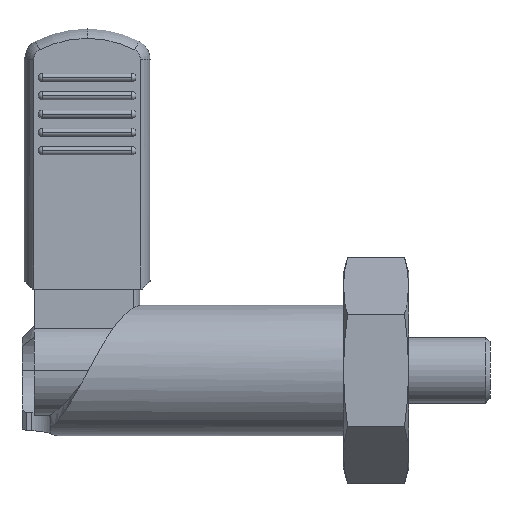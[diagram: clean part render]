
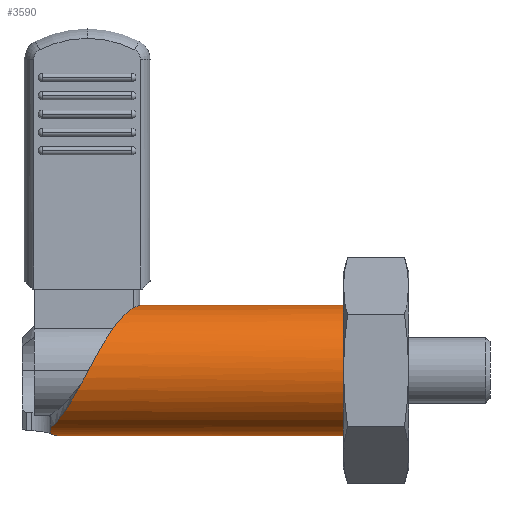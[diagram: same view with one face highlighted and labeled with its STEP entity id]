
A CAD part, left-side view. The second image highlights one B-rep face of the part: STEP entity #3590.
In plain terms, the highlighted cylindrical face has radius 8 mm (diameter 16 mm), a partial arc.
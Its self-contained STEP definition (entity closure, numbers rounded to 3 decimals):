
#5 = CARTESIAN_POINT ( 'NONE',  ( -7.467, 37.653, 3.094 ) ) ;
#19 = DIRECTION ( 'NONE',  ( 0., -1., 0. ) ) ;
#28 = CARTESIAN_POINT ( 'NONE',  ( -7.228, 41.334, -3.617 ) ) ;
#49 = CARTESIAN_POINT ( 'NONE',  ( -6.293, 36.425, 5.072 ) ) ;
#67 = VERTEX_POINT ( 'NONE', #2183 ) ;
#86 = CARTESIAN_POINT ( 'NONE',  ( -1.35, 43.615, -7.887 ) ) ;
#115 = FACE_OUTER_BOUND ( 'NONE', #2875, .T. ) ;
#168 = CARTESIAN_POINT ( 'NONE',  ( -0.501, 33.031, 7.988 ) ) ;
#192 = DIRECTION ( 'NONE',  ( 0., -1., 0. ) ) ;
#272 = CARTESIAN_POINT ( 'NONE',  ( -1.441, 33.369, 7.869 ) ) ;
#369 =( BOUNDED_CURVE ( )  B_SPLINE_CURVE ( 2, ( #440, #3766, #3436, #3786, #767, #49, #1871, #5, #2240, #3052, #1517, #4457, #417, #28, #810, #3356, #2332, #1944, #1965 ),
 .UNSPECIFIED., .F., .T. ) 
 B_SPLINE_CURVE_WITH_KNOTS ( ( 3, 2, 2, 2, 2, 2, 2, 2, 2, 3 ),
 ( 0.001, 0.083, 0.167, 0.25, 0.333, 0.417, 0.5, 0.583, 0.667, 0.723 ),
 .UNSPECIFIED. ) 
 CURVE ( )  GEOMETRIC_REPRESENTATION_ITEM ( )  RATIONAL_B_SPLINE_CURVE ( ( 1., 0.99, 1., 0.99, 1., 0.99, 1., 0.99, 1., 0.99, 1., 0.99, 1., 0.99, 1., 0.99, 1., 0.993, 0.996 ) ) 
 REPRESENTATION_ITEM ( '' )  );
#417 = CARTESIAN_POINT ( 'NONE',  ( -7.591, 40.721, -2.526 ) ) ;
#440 = CARTESIAN_POINT ( 'NONE',  ( -1.441, 33.369, 7.869 ) ) ;
#470 = CARTESIAN_POINT ( 'NONE',  ( -0.175, 43.3, -8. ) ) ;
#547 = CARTESIAN_POINT ( 'NONE',  ( 0., 0., -8. ) ) ;
#684 = ORIENTED_EDGE ( 'NONE', *, *, #4495, .T. ) ;
#765 = VERTEX_POINT ( 'NONE', #4321 ) ;
#767 = CARTESIAN_POINT ( 'NONE',  ( -5.451, 35.812, 5.856 ) ) ;
#810 = CARTESIAN_POINT ( 'NONE',  ( -6.572, 41.948, -4.562 ) ) ;
#841 = CARTESIAN_POINT ( 'NONE',  ( -0.35, 43.315, -7.994 ) ) ;
#918 = LINE ( 'NONE', #547, #1100 ) ;
#930 = CARTESIAN_POINT ( 'NONE',  ( 0., 33., 8. ) ) ;
#941 = B_SPLINE_CURVE_WITH_KNOTS ( 'NONE', 3,
 ( #1195, #4156, #1971, #86, #1595, #1217, #4180, #841, #470, #3871 ),
 .UNSPECIFIED., .F., .F.,
 ( 4, 2, 2, 2, 4 ),
 ( 0.003, 0.003, 0.004, 0.004, 0.005 ),
 .UNSPECIFIED. ) ;
#1100 = VECTOR ( 'NONE', #3234, 1000. ) ;
#1155 = VERTEX_POINT ( 'NONE', #1671 ) ;
#1156 = DIRECTION ( 'NONE',  ( 0., 0., -1. ) ) ;
#1195 = CARTESIAN_POINT ( 'NONE',  ( -1.926, 44., -7.765 ) ) ;
#1217 = CARTESIAN_POINT ( 'NONE',  ( -0.867, 43.423, -7.955 ) ) ;
#1311 = CARTESIAN_POINT ( 'NONE',  ( 0., 33., 8. ) ) ;
#1342 = AXIS2_PLACEMENT_3D ( 'NONE', #3022, #19, #4494 ) ;
#1357 = CARTESIAN_POINT ( 'NONE',  ( -1.223, 33.249, 7.909 ) ) ;
#1517 = CARTESIAN_POINT ( 'NONE',  ( -7.995, 39.494, -0.285 ) ) ;
#1560 = ORIENTED_EDGE ( 'NONE', *, *, #4334, .T. ) ;
#1595 = CARTESIAN_POINT ( 'NONE',  ( -1.193, 43.542, -7.912 ) ) ;
#1671 = CARTESIAN_POINT ( 'NONE',  ( 0., 43.3, -8. ) ) ;
#1734 = CARTESIAN_POINT ( 'NONE',  ( -0.252, 33., 8. ) ) ;
#1871 = CARTESIAN_POINT ( 'NONE',  ( -6.88, 37.039, 4.083 ) ) ;
#1914 = DIRECTION ( 'NONE',  ( 0., -1., 0. ) ) ;
#1944 = CARTESIAN_POINT ( 'NONE',  ( -4.421, 43.586, -6.711 ) ) ;
#1965 = CARTESIAN_POINT ( 'NONE',  ( -3.741, 44., -7.071 ) ) ;
#1971 = CARTESIAN_POINT ( 'NONE',  ( -1.65, 43.789, -7.829 ) ) ;
#2022 = VERTEX_POINT ( 'NONE', #2576 ) ;
#2026 = ORIENTED_EDGE ( 'NONE', *, *, #4013, .T. ) ;
#2054 = B_SPLINE_CURVE_WITH_KNOTS ( 'NONE', 3,
 ( #272, #1357, #2080, #168, #1734, #1311 ),
 .UNSPECIFIED., .F., .F.,
 ( 4, 2, 4 ),
 ( 0.003, 0.004, 0.005 ),
 .UNSPECIFIED. ) ;
#2080 = CARTESIAN_POINT ( 'NONE',  ( -0.992, 33.157, 7.942 ) ) ;
#2177 = DIRECTION ( 'NONE',  ( 0., 1., 0. ) ) ;
#2183 = CARTESIAN_POINT ( 'NONE',  ( -1.926, 44., -7.765 ) ) ;
#2204 = DIRECTION ( 'NONE',  ( 0., 0., -1. ) ) ;
#2240 = CARTESIAN_POINT ( 'NONE',  ( -7.751, 38.266, 1.979 ) ) ;
#2290 = EDGE_CURVE ( 'NONE', #2963, #3421, #3860, .T. ) ;
#2323 = CYLINDRICAL_SURFACE ( 'NONE', #1342, 8. ) ;
#2332 = CARTESIAN_POINT ( 'NONE',  ( -5.02, 43.175, -6.229 ) ) ;
#2576 = CARTESIAN_POINT ( 'NONE',  ( 0., 1.905, -8. ) ) ;
#2596 = ORIENTED_EDGE ( 'NONE', *, *, #3049, .T. ) ;
#2720 = ORIENTED_EDGE ( 'NONE', *, *, #2290, .F. ) ;
#2736 = VERTEX_POINT ( 'NONE', #4634 ) ;
#2782 = AXIS2_PLACEMENT_3D ( 'NONE', #3732, #2177, #2204 ) ;
#2810 = CIRCLE ( 'NONE', #3426, 8. ) ;
#2875 = EDGE_LOOP ( 'NONE', ( #2720, #3330, #1560, #2596, #2026, #4285, #684 ) ) ;
#2963 = VERTEX_POINT ( 'NONE', #930 ) ;
#2980 = CARTESIAN_POINT ( 'NONE',  ( 0., 44., 0. ) ) ;
#3001 = CARTESIAN_POINT ( 'NONE',  ( 0., 1.905, 8. ) ) ;
#3022 = CARTESIAN_POINT ( 'NONE',  ( 0., 0., 0. ) ) ;
#3049 = EDGE_CURVE ( 'NONE', #2736, #67, #2810, .T. ) ;
#3052 = CARTESIAN_POINT ( 'NONE',  ( -8.036, 38.88, 0.865 ) ) ;
#3234 = DIRECTION ( 'NONE',  ( 0., -1., 0. ) ) ;
#3330 = ORIENTED_EDGE ( 'NONE', *, *, #4589, .F. ) ;
#3340 = VECTOR ( 'NONE', #192, 1000. ) ;
#3356 = CARTESIAN_POINT ( 'NONE',  ( -5.916, 42.562, -5.507 ) ) ;
#3421 = VERTEX_POINT ( 'NONE', #3001 ) ;
#3426 = AXIS2_PLACEMENT_3D ( 'NONE', #2980, #1914, #1156 ) ;
#3436 = CARTESIAN_POINT ( 'NONE',  ( -3.58, 34.584, 7.154 ) ) ;
#3590 = ADVANCED_FACE ( 'NONE', ( #115 ), #2323, .T. ) ;
#3658 = EDGE_CURVE ( 'NONE', #1155, #2022, #918, .T. ) ;
#3732 = CARTESIAN_POINT ( 'NONE',  ( 0., 1.905, 0. ) ) ;
#3766 = CARTESIAN_POINT ( 'NONE',  ( -2.561, 33.977, 7.664 ) ) ;
#3786 = CARTESIAN_POINT ( 'NONE',  ( -4.609, 35.198, 6.639 ) ) ;
#3860 = LINE ( 'NONE', #4588, #3340 ) ;
#3871 = CARTESIAN_POINT ( 'NONE',  ( 0., 43.3, -8. ) ) ;
#4013 = EDGE_CURVE ( 'NONE', #67, #1155, #941, .T. ) ;
#4156 = CARTESIAN_POINT ( 'NONE',  ( -1.794, 43.889, -7.797 ) ) ;
#4180 = CARTESIAN_POINT ( 'NONE',  ( -0.695, 43.376, -7.972 ) ) ;
#4285 = ORIENTED_EDGE ( 'NONE', *, *, #3658, .T. ) ;
#4310 = CIRCLE ( 'NONE', #2782, 8. ) ;
#4321 = CARTESIAN_POINT ( 'NONE',  ( -1.441, 33.369, 7.869 ) ) ;
#4334 = EDGE_CURVE ( 'NONE', #765, #2736, #369, .T. ) ;
#4457 = CARTESIAN_POINT ( 'NONE',  ( -7.954, 40.107, -1.434 ) ) ;
#4494 = DIRECTION ( 'NONE',  ( 0., 0., -1. ) ) ;
#4495 = EDGE_CURVE ( 'NONE', #2022, #3421, #4310, .T. ) ;
#4588 = CARTESIAN_POINT ( 'NONE',  ( 0., 0., 8. ) ) ;
#4589 = EDGE_CURVE ( 'NONE', #765, #2963, #2054, .T. ) ;
#4634 = CARTESIAN_POINT ( 'NONE',  ( -3.741, 44., -7.071 ) ) ;
